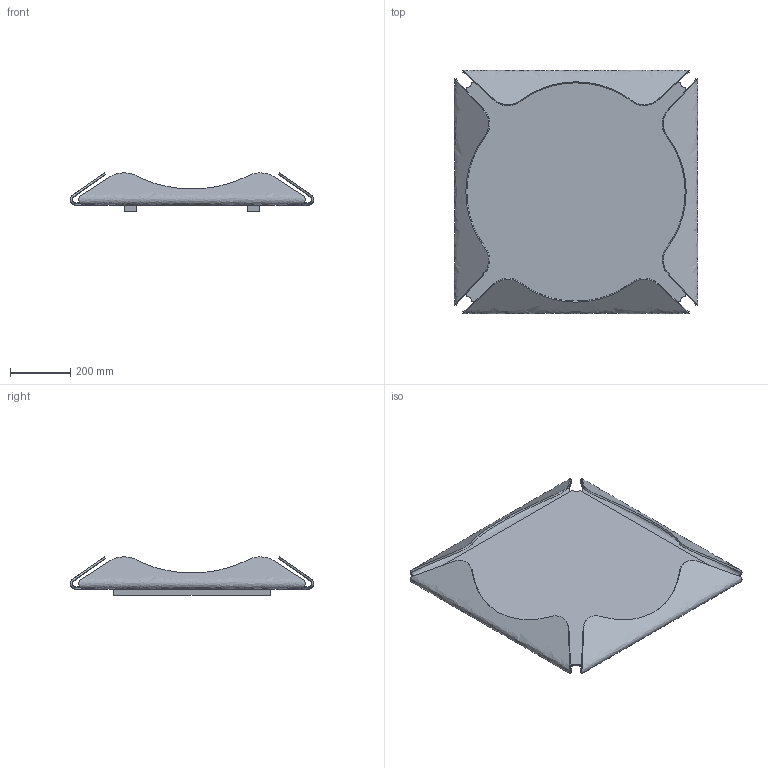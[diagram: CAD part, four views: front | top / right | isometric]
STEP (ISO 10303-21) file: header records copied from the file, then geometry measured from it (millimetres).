
FILE_DESCRIPTION(/* description */ (''),/* implementation_level */ '2;1');
FILE_NAME(/* name */ '340 - Gallery Circle 81x81',/* time_stamp */ '2010-11-02T14:31:20+01:00',/* author */ (''),/* organization */ (''),/* preprocessor_version */ 'ST-DEVELOPER v10',/* originating_system */ '',/* authorisation */ '');
FILE_SCHEMA (('CONFIG_CONTROL_DESIGN'));
Length unit declared in the file: centimetre
Products named in the file (1): 1
Bounding box: 810 x 810 x 127.21 mm (x, y, z)
Volume: 6969921.2 mm3; surface area: 2417683.3 mm2
Topology: 7 solids, 7 shells, 86 faces, 216 edges, 144 vertices
Faces by surface type: bspline 68, plane 18
Entity records: 3132 total; most frequent: CARTESIAN_POINT 1708, ORIENTED_EDGE 432, EDGE_CURVE 216, B_SPLINE_CURVE_WITH_KNOTS 160, VERTEX_POINT 144, EDGE_LOOP 94, ADVANCED_FACE 86, FACE_OUTER_BOUND 86
